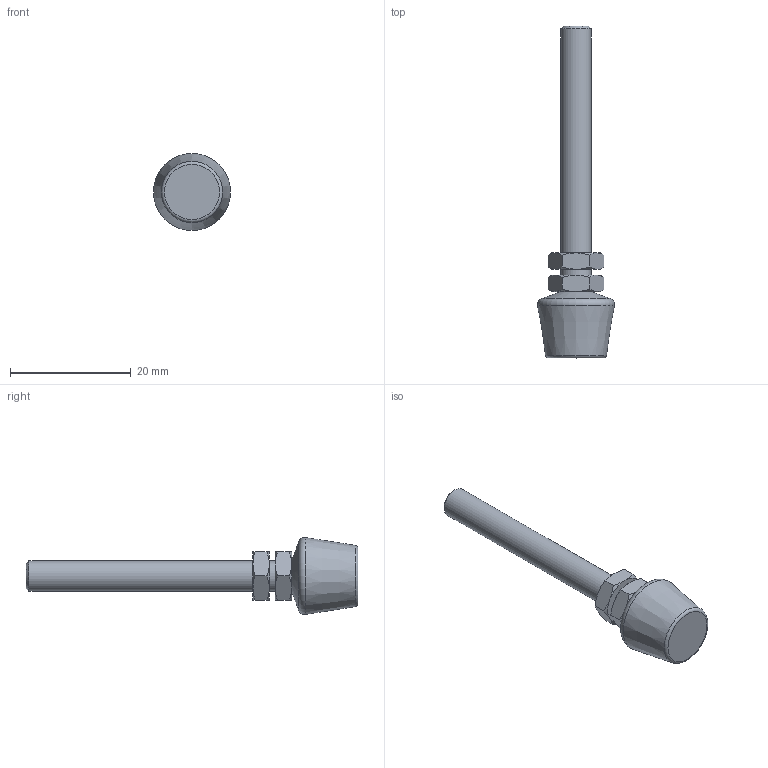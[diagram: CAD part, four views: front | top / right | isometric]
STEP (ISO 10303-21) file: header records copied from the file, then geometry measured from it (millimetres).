
FILE_DESCRIPTION( ( 'STEP AP203' ), '1' );
FILE_NAME( 'C:/Temp/Ganter_Step_05_03_2020/data/2_4/gn_708_1/gn_708_1_st/Clamping bolt GN 708.1-M5-55-A-ST (0).stp', '2020-03-13T05:51:04', ( 'License CC BY-ND 4.0' ), ( 'CADENAS' ), ' ', 'PARTsolutions', ' ' );
FILE_SCHEMA( ( 'CONFIG_CONTROL_DESIGN' ) );
Length unit declared in the file: millimetre
Products named in the file (3): Clamping bolt GN 708.1-M5-55-A-ST (0); _Andrueckschraube GN 708.1-M5-55-A-ST (0)-1; _Andrueckschraube GN 708.1-M5-55-A-ST2
Assembly tree (3 placements, depth 2):
  Clamping bolt GN 708.1-M5-55-A-ST (0)
    _Andrueckschraube GN 708.1-M5-55-A-ST (0)-1
    _Andrueckschraube GN 708.1-M5-55-A-ST2  x2
Bounding box: 12.77 x 55 x 12.77 mm (x, y, z)
Volume: 2169.1 mm3; surface area: 1602 mm2
Topology: 3 solids, 3 shells, 54 faces, 111 edges, 63 vertices
Faces by surface type: cone 31, plane 18, cylinder 3, torus 2
Full cylindrical faces by diameter (mm): 4.134 x2, 5 x1
Entity records: 922 total; most frequent: CARTESIAN_POINT 228, DIRECTION 122, ORIENTED_EDGE 106, AXIS2_PLACEMENT_3D 58, EDGE_CURVE 53, EDGE_LOOP 42, VERTEX_POINT 36, FACE_OUTER_BOUND 35
